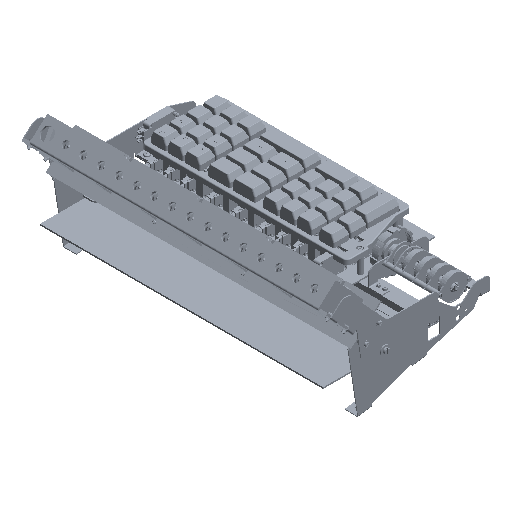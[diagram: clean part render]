
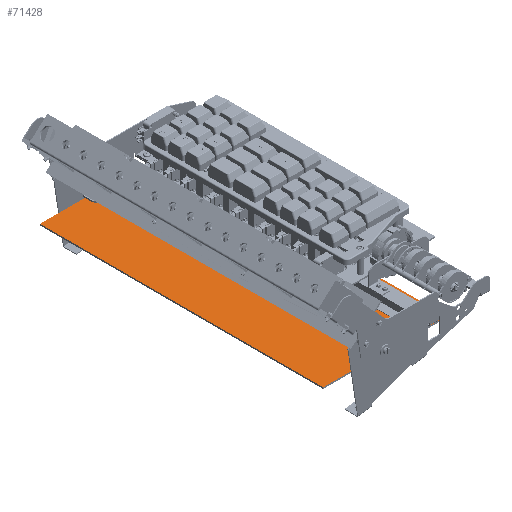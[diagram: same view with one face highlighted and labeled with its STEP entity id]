
A CAD part, isometric view. The second image highlights one B-rep face of the part: STEP entity #71428.
In plain terms, the highlighted planar face has unit normal (0, 0, 1).
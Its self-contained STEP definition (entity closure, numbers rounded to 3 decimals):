
#71428=ADVANCED_FACE('',(#133534,#133535,#133536,#133537),#133538,.T.);
#133534=FACE_BOUND('',#237025,.T.);
#133535=FACE_BOUND('',#237026,.T.);
#133536=FACE_BOUND('',#237027,.T.);
#133537=FACE_OUTER_BOUND('',#237028,.T.);
#133538=PLANE('',#237029);
#237025=EDGE_LOOP('',(#395068));
#237026=EDGE_LOOP('',(#395069));
#237027=EDGE_LOOP('',(#395070));
#237028=EDGE_LOOP('',(#395071,#395072,#395073,#395074,#395075,#395076,#395077,#395078,#395079,#395080,#395081,#395082,#395083,#395084,#395085,#395086,#395087,#395088));
#237029=AXIS2_PLACEMENT_3D('',#395089,#395090,#395091);
#395068=ORIENTED_EDGE('',*,*,#457398,.T.);
#395069=ORIENTED_EDGE('',*,*,#457399,.T.);
#395070=ORIENTED_EDGE('',*,*,#457400,.T.);
#395071=ORIENTED_EDGE('',*,*,#457393,.T.);
#395072=ORIENTED_EDGE('',*,*,#457374,.T.);
#395073=ORIENTED_EDGE('',*,*,#457401,.T.);
#395074=ORIENTED_EDGE('',*,*,#457402,.T.);
#395075=ORIENTED_EDGE('',*,*,#457403,.T.);
#395076=ORIENTED_EDGE('',*,*,#457404,.F.);
#395077=ORIENTED_EDGE('',*,*,#457405,.T.);
#395078=ORIENTED_EDGE('',*,*,#457406,.T.);
#395079=ORIENTED_EDGE('',*,*,#457407,.T.);
#395080=ORIENTED_EDGE('',*,*,#457408,.T.);
#395081=ORIENTED_EDGE('',*,*,#457409,.T.);
#395082=ORIENTED_EDGE('',*,*,#457379,.T.);
#395083=ORIENTED_EDGE('',*,*,#457396,.T.);
#395084=ORIENTED_EDGE('',*,*,#457389,.T.);
#395085=ORIENTED_EDGE('',*,*,#457410,.T.);
#395086=ORIENTED_EDGE('',*,*,#457411,.T.);
#395087=ORIENTED_EDGE('',*,*,#457412,.T.);
#395088=ORIENTED_EDGE('',*,*,#457384,.T.);
#395089=CARTESIAN_POINT('',(-17.857,-25.0,0.714));
#395090=DIRECTION('',(0.0,0.0,1.0));
#395091=DIRECTION('',(1.0,0.0,0.0));
#457374=EDGE_CURVE('',#549137,#549135,#549138,.T.);
#457379=EDGE_CURVE('',#549146,#549144,#549147,.T.);
#457384=EDGE_CURVE('',#549155,#549153,#549156,.T.);
#457389=EDGE_CURVE('',#549164,#549162,#549165,.T.);
#457393=EDGE_CURVE('',#549153,#549137,#549169,.T.);
#457396=EDGE_CURVE('',#549144,#549164,#549172,.T.);
#457398=EDGE_CURVE('',#549174,#549174,#549175,.T.);
#457399=EDGE_CURVE('',#549176,#549176,#549177,.T.);
#457400=EDGE_CURVE('',#549178,#549178,#549179,.F.);
#457401=EDGE_CURVE('',#549135,#549180,#549181,.T.);
#457402=EDGE_CURVE('',#549180,#549182,#549183,.T.);
#457403=EDGE_CURVE('',#549182,#549184,#549185,.T.);
#457404=EDGE_CURVE('',#549186,#549184,#549187,.T.);
#457405=EDGE_CURVE('',#549186,#549188,#549189,.T.);
#457406=EDGE_CURVE('',#549188,#549190,#549191,.T.);
#457407=EDGE_CURVE('',#549190,#549192,#549193,.T.);
#457408=EDGE_CURVE('',#549192,#549194,#549195,.T.);
#457409=EDGE_CURVE('',#549194,#549146,#549196,.T.);
#457410=EDGE_CURVE('',#549162,#549197,#549198,.T.);
#457411=EDGE_CURVE('',#549197,#549199,#549200,.T.);
#457412=EDGE_CURVE('',#549199,#549155,#549201,.T.);
#549135=VERTEX_POINT('',#679282);
#549137=VERTEX_POINT('',#679285);
#549138=LINE('',#679286,#679287);
#549144=VERTEX_POINT('',#679295);
#549146=VERTEX_POINT('',#679298);
#549147=LINE('',#679299,#679300);
#549153=VERTEX_POINT('',#679308);
#549155=VERTEX_POINT('',#679311);
#549156=LINE('',#679312,#679313);
#549162=VERTEX_POINT('',#679321);
#549164=VERTEX_POINT('',#679324);
#549165=LINE('',#679325,#679326);
#549169=CIRCLE('',#679331,1.25);
#549172=CIRCLE('',#679334,1.25);
#549174=VERTEX_POINT('',#679336);
#549175=CIRCLE('',#679337,1.75);
#549176=VERTEX_POINT('',#679338);
#549177=CIRCLE('',#679339,1.75);
#549178=VERTEX_POINT('',#679340);
#549179=CIRCLE('',#679341,1.75);
#549180=VERTEX_POINT('',#679342);
#549181=LINE('',#679343,#679344);
#549182=VERTEX_POINT('',#679345);
#549183=LINE('',#679346,#679347);
#549184=VERTEX_POINT('',#679348);
#549185=LINE('',#679349,#679350);
#549186=VERTEX_POINT('',#679351);
#549187=LINE('',#679352,#679353);
#549188=VERTEX_POINT('',#679354);
#549189=LINE('',#679355,#679356);
#549190=VERTEX_POINT('',#679357);
#549191=LINE('',#679358,#679359);
#549192=VERTEX_POINT('',#679360);
#549193=LINE('',#679361,#679362);
#549194=VERTEX_POINT('',#679363);
#549195=LINE('',#679364,#679365);
#549196=LINE('',#679366,#679367);
#549197=VERTEX_POINT('',#679368);
#549198=LINE('',#679369,#679370);
#549199=VERTEX_POINT('',#679371);
#549200=LINE('',#679372,#679373);
#549201=LINE('',#679374,#679375);
#679282=CARTESIAN_POINT('',(48.143,-19.25,0.714));
#679285=CARTESIAN_POINT('',(49.893,-19.25,0.714));
#679286=CARTESIAN_POINT('',(49.893,-19.25,0.714));
#679287=VECTOR('',#741125,1.0);
#679295=CARTESIAN_POINT('',(33.393,-19.25,0.714));
#679298=CARTESIAN_POINT('',(35.143,-19.25,0.714));
#679299=CARTESIAN_POINT('',(49.893,-19.25,0.714));
#679300=VECTOR('',#741129,1.0);
#679308=CARTESIAN_POINT('',(49.893,-16.75,0.714));
#679311=CARTESIAN_POINT('',(48.143,-16.75,0.714));
#679312=CARTESIAN_POINT('',(33.393,-16.75,0.714));
#679313=VECTOR('',#741133,1.0);
#679321=CARTESIAN_POINT('',(35.143,-16.75,0.714));
#679324=CARTESIAN_POINT('',(33.393,-16.75,0.714));
#679325=CARTESIAN_POINT('',(33.393,-16.75,0.714));
#679326=VECTOR('',#741137,1.0);
#679331=AXIS2_PLACEMENT_3D('',#741142,#741143,#741144);
#679334=AXIS2_PLACEMENT_3D('',#741148,#741149,#741150);
#679336=CARTESIAN_POINT('',(99.143,177.25,0.714));
#679337=AXIS2_PLACEMENT_3D('',#741151,#741152,#741153);
#679338=CARTESIAN_POINT('',(99.143,51.75,0.714));
#679339=AXIS2_PLACEMENT_3D('',#741154,#741155,#741156);
#679340=CARTESIAN_POINT('',(40.435,287.15,0.714));
#679341=AXIS2_PLACEMENT_3D('',#741157,#741158,#741159);
#679342=CARTESIAN_POINT('',(48.143,-25.0,0.714));
#679343=CARTESIAN_POINT('',(48.143,-12.5,0.714));
#679344=VECTOR('',#741160,1.0);
#679345=CARTESIAN_POINT('',(121.143,-25.0,0.714));
#679346=CARTESIAN_POINT('',(-17.857,-25.0,0.714));
#679347=VECTOR('',#741161,1.0);
#679348=CARTESIAN_POINT('',(121.143,281.0,0.714));
#679349=CARTESIAN_POINT('',(121.143,-25.0,0.714));
#679350=VECTOR('',#741162,1.0);
#679351=CARTESIAN_POINT('',(99.643,281.0,0.714));
#679352=CARTESIAN_POINT('',(99.643,281.0,0.714));
#679353=VECTOR('',#741163,1.0);
#679354=CARTESIAN_POINT('',(99.643,294.0,0.714));
#679355=CARTESIAN_POINT('',(99.643,281.0,0.714));
#679356=VECTOR('',#741164,1.0);
#679357=CARTESIAN_POINT('',(-17.857,294.0,0.714));
#679358=CARTESIAN_POINT('',(121.143,294.0,0.714));
#679359=VECTOR('',#741165,1.0);
#679360=CARTESIAN_POINT('',(-17.857,-25.0,0.714));
#679361=CARTESIAN_POINT('',(-17.857,294.0,0.714));
#679362=VECTOR('',#741166,1.0);
#679363=CARTESIAN_POINT('',(35.143,-25.0,0.714));
#679364=CARTESIAN_POINT('',(-17.857,-25.0,0.714));
#679365=VECTOR('',#741167,1.0);
#679366=CARTESIAN_POINT('',(35.143,-25.0,0.714));
#679367=VECTOR('',#741168,1.0);
#679368=CARTESIAN_POINT('',(35.143,-12.5,0.714));
#679369=CARTESIAN_POINT('',(35.143,-25.0,0.714));
#679370=VECTOR('',#741169,1.0);
#679371=CARTESIAN_POINT('',(48.143,-12.5,0.714));
#679372=CARTESIAN_POINT('',(35.143,-12.5,0.714));
#679373=VECTOR('',#741170,1.0);
#679374=CARTESIAN_POINT('',(48.143,-12.5,0.714));
#679375=VECTOR('',#741171,1.0);
#741125=DIRECTION('',(-1.0,0.0,0.0));
#741129=DIRECTION('',(-1.0,0.0,0.0));
#741133=DIRECTION('',(1.0,0.0,0.0));
#741137=DIRECTION('',(1.0,0.0,0.0));
#741142=CARTESIAN_POINT('',(49.893,-18.0,0.714));
#741143=DIRECTION('',(0.0,0.0,-1.0));
#741144=DIRECTION('',(1.0,0.0,0.0));
#741148=CARTESIAN_POINT('',(33.393,-18.0,0.714));
#741149=DIRECTION('',(0.0,0.0,-1.0));
#741150=DIRECTION('',(1.0,0.0,0.0));
#741151=CARTESIAN_POINT('',(99.143,175.5,0.714));
#741152=DIRECTION('',(0.0,0.0,-1.0));
#741153=DIRECTION('',(0.0,1.0,0.0));
#741154=CARTESIAN_POINT('',(99.143,50.0,0.714));
#741155=DIRECTION('',(0.0,0.0,-1.0));
#741156=DIRECTION('',(0.0,1.0,0.0));
#741157=CARTESIAN_POINT('',(38.685,287.15,0.714));
#741158=DIRECTION('',(0.0,0.0,1.0));
#741159=DIRECTION('',(1.0,0.0,0.0));
#741160=DIRECTION('',(0.0,-1.0,0.0));
#741161=DIRECTION('',(1.0,0.0,0.0));
#741162=DIRECTION('',(0.0,1.0,0.0));
#741163=DIRECTION('',(1.0,0.0,0.0));
#741164=DIRECTION('',(0.0,1.0,0.0));
#741165=DIRECTION('',(-1.0,0.0,0.0));
#741166=DIRECTION('',(0.0,-1.0,0.0));
#741167=DIRECTION('',(1.0,0.0,0.0));
#741168=DIRECTION('',(0.0,1.0,0.0));
#741169=DIRECTION('',(0.0,1.0,0.0));
#741170=DIRECTION('',(1.0,0.0,0.0));
#741171=DIRECTION('',(0.0,-1.0,0.0));
